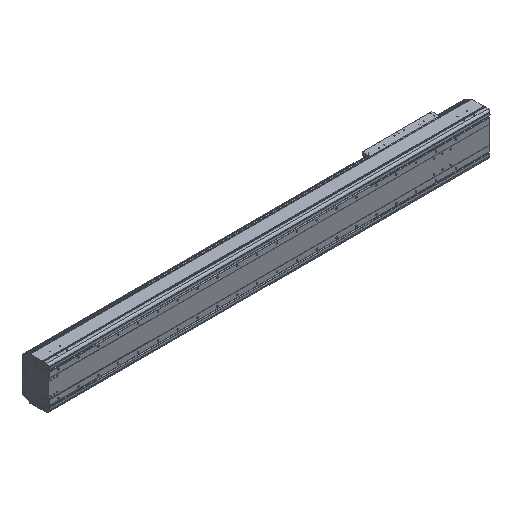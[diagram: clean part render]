
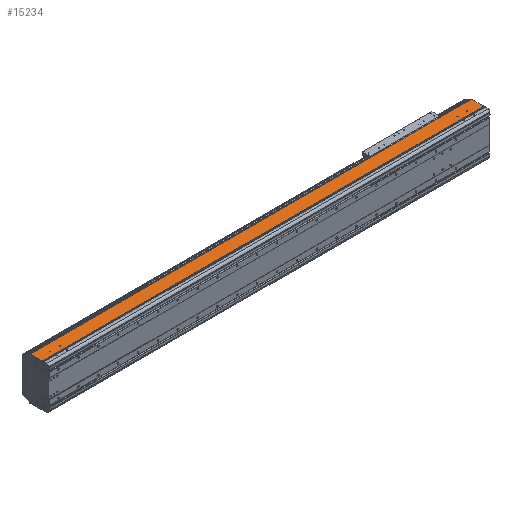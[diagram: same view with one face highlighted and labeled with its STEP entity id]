
A CAD part, isometric view. The second image highlights one B-rep face of the part: STEP entity #15234.
In plain terms, the highlighted planar face has unit normal (0, 0, 1).
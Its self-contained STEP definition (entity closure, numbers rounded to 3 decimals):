
#1832=DIRECTION('',(0.,-1.,0.));
#1833=VECTOR('',#1832,2.55);
#1834=CARTESIAN_POINT('',(0.,34.65,107.));
#1835=LINE('',#1834,#1833);
#2315=DIRECTION('',(1.,0.,0.));
#2316=VECTOR('',#2315,2.);
#2317=CARTESIAN_POINT('',(-2221.,34.65,107.));
#2318=LINE('',#2317,#2316);
#2319=CARTESIAN_POINT('',(-59.5,54.,107.));
#2320=DIRECTION('',(0.,0.,-1.));
#2321=DIRECTION('',(1.,0.,0.));
#2322=AXIS2_PLACEMENT_3D('',#2319,#2320,#2321);
#2324=CARTESIAN_POINT('',(-59.5,54.,107.));
#2325=DIRECTION('',(0.,0.,-1.));
#2326=DIRECTION('',(-1.,0.,0.));
#2327=AXIS2_PLACEMENT_3D('',#2324,#2325,#2326);
#2329=CARTESIAN_POINT('',(-109.5,54.,107.));
#2330=DIRECTION('',(0.,0.,-1.));
#2331=DIRECTION('',(1.,0.,0.));
#2332=AXIS2_PLACEMENT_3D('',#2329,#2330,#2331);
#2334=CARTESIAN_POINT('',(-109.5,54.,107.));
#2335=DIRECTION('',(0.,0.,-1.));
#2336=DIRECTION('',(-1.,0.,0.));
#2337=AXIS2_PLACEMENT_3D('',#2334,#2335,#2336);
#2339=CARTESIAN_POINT('',(-2159.5,54.,107.));
#2340=DIRECTION('',(0.,0.,-1.));
#2341=DIRECTION('',(1.,0.,0.));
#2342=AXIS2_PLACEMENT_3D('',#2339,#2340,#2341);
#2344=CARTESIAN_POINT('',(-2159.5,54.,107.));
#2345=DIRECTION('',(0.,0.,-1.));
#2346=DIRECTION('',(-1.,0.,0.));
#2347=AXIS2_PLACEMENT_3D('',#2344,#2345,#2346);
#2349=CARTESIAN_POINT('',(-2109.5,54.,107.));
#2350=DIRECTION('',(0.,0.,-1.));
#2351=DIRECTION('',(1.,0.,0.));
#2352=AXIS2_PLACEMENT_3D('',#2349,#2350,#2351);
#2354=CARTESIAN_POINT('',(-2109.5,54.,107.));
#2355=DIRECTION('',(0.,0.,-1.));
#2356=DIRECTION('',(-1.,0.,0.));
#2357=AXIS2_PLACEMENT_3D('',#2354,#2355,#2356);
#2359=DIRECTION('',(0.,-1.,0.));
#2360=VECTOR('',#2359,2.55);
#2361=CARTESIAN_POINT('',(-2219.,34.65,107.));
#2362=LINE('',#2361,#2360);
#2363=DIRECTION('',(0.,-1.,0.));
#2364=VECTOR('',#2363,58.85);
#2365=CARTESIAN_POINT('',(-2221.,93.5,107.));
#2366=LINE('',#2365,#2364);
#2367=DIRECTION('',(0.,1.,0.));
#2368=VECTOR('',#2367,58.85);
#2369=CARTESIAN_POINT('',(2.,34.65,107.));
#2370=LINE('',#2369,#2368);
#2371=DIRECTION('',(1.,0.,0.));
#2372=VECTOR('',#2371,2219.);
#2373=CARTESIAN_POINT('',(-2219.,32.1,107.));
#2374=LINE('',#2373,#2372);
#2479=DIRECTION('',(-1.,0.,0.));
#2480=VECTOR('',#2479,2223.);
#2481=CARTESIAN_POINT('',(2.,93.5,107.));
#2482=LINE('',#2481,#2480);
#8389=DIRECTION('',(1.,0.,0.));
#8390=VECTOR('',#8389,2.);
#8391=CARTESIAN_POINT('',(0.,34.65,107.));
#8392=LINE('',#8391,#8390);
#9545=CARTESIAN_POINT('',(-2221.,34.65,107.));
#9546=VERTEX_POINT('',#9545);
#9547=CARTESIAN_POINT('',(-2221.,93.5,107.));
#9548=VERTEX_POINT('',#9547);
#9777=CARTESIAN_POINT('',(-2219.,32.1,107.));
#9778=VERTEX_POINT('',#9777);
#10141=CARTESIAN_POINT('',(0.,32.1,107.));
#10142=VERTEX_POINT('',#10141);
#10143=CARTESIAN_POINT('',(-57.,54.,107.));
#10144=CARTESIAN_POINT('',(-62.,54.,107.));
#10145=VERTEX_POINT('',#10143);
#10146=VERTEX_POINT('',#10144);
#10147=CARTESIAN_POINT('',(-107.,54.,107.));
#10148=CARTESIAN_POINT('',(-112.,54.,107.));
#10149=VERTEX_POINT('',#10147);
#10150=VERTEX_POINT('',#10148);
#10151=CARTESIAN_POINT('',(-2157.,54.,107.));
#10152=CARTESIAN_POINT('',(-2162.,54.,107.));
#10153=VERTEX_POINT('',#10151);
#10154=VERTEX_POINT('',#10152);
#10155=CARTESIAN_POINT('',(-2107.,54.,107.));
#10156=CARTESIAN_POINT('',(-2112.,54.,107.));
#10157=VERTEX_POINT('',#10155);
#10158=VERTEX_POINT('',#10156);
#11058=CARTESIAN_POINT('',(2.,34.65,107.));
#11059=VERTEX_POINT('',#11058);
#11060=CARTESIAN_POINT('',(2.,93.5,107.));
#11061=VERTEX_POINT('',#11060);
#11512=CARTESIAN_POINT('',(0.,34.65,107.));
#11513=VERTEX_POINT('',#11512);
#11592=CARTESIAN_POINT('',(-2219.,34.65,107.));
#11593=VERTEX_POINT('',#11592);
#15192=CARTESIAN_POINT('',(-1109.5,62.8,107.));
#15193=DIRECTION('',(0.,0.,1.));
#15194=DIRECTION('',(0.,-1.,0.));
#15195=AXIS2_PLACEMENT_3D('',#15192,#15193,#15194);
#15196=PLANE('',#15195);
#15197=ORIENTED_EDGE('',*,*,#12678,.F.);
#15198=ORIENTED_EDGE('',*,*,#15187,.F.);
#15199=ORIENTED_EDGE('',*,*,#13307,.F.);
#15201=ORIENTED_EDGE('',*,*,#15200,.F.);
#15202=ORIENTED_EDGE('',*,*,#12415,.F.);
#15204=ORIENTED_EDGE('',*,*,#15203,.F.);
#15205=ORIENTED_EDGE('',*,*,#14795,.T.);
#15207=ORIENTED_EDGE('',*,*,#15206,.F.);
#15208=EDGE_LOOP('',(#15197,#15198,#15199,#15201,#15202,#15204,#15205,#15207));
#15209=FACE_OUTER_BOUND('',#15208,.F.);
#15211=ORIENTED_EDGE('',*,*,#15210,.F.);
#15213=ORIENTED_EDGE('',*,*,#15212,.F.);
#15214=EDGE_LOOP('',(#15211,#15213));
#15215=FACE_BOUND('',#15214,.F.);
#15217=ORIENTED_EDGE('',*,*,#15216,.F.);
#15219=ORIENTED_EDGE('',*,*,#15218,.F.);
#15220=EDGE_LOOP('',(#15217,#15219));
#15221=FACE_BOUND('',#15220,.F.);
#15223=ORIENTED_EDGE('',*,*,#15222,.F.);
#15225=ORIENTED_EDGE('',*,*,#15224,.F.);
#15226=EDGE_LOOP('',(#15223,#15225));
#15227=FACE_BOUND('',#15226,.F.);
#15229=ORIENTED_EDGE('',*,*,#15228,.F.);
#15231=ORIENTED_EDGE('',*,*,#15230,.F.);
#15232=EDGE_LOOP('',(#15229,#15231));
#15233=FACE_BOUND('',#15232,.F.);
#15234=ADVANCED_FACE('',(#15209,#15215,#15221,#15227,#15233),#15196,.T.);
#2323=CIRCLE('',#2322,2.5);
#2328=CIRCLE('',#2327,2.5);
#2333=CIRCLE('',#2332,2.5);
#2338=CIRCLE('',#2337,2.5);
#2343=CIRCLE('',#2342,2.5);
#2348=CIRCLE('',#2347,2.5);
#2353=CIRCLE('',#2352,2.5);
#2358=CIRCLE('',#2357,2.5);
#12415=EDGE_CURVE('',#11059,#11061,#2370,.T.);
#12678=EDGE_CURVE('',#11593,#9778,#2362,.T.);
#13307=EDGE_CURVE('',#9548,#9546,#2366,.T.);
#14795=EDGE_CURVE('',#11513,#10142,#1835,.T.);
#15187=EDGE_CURVE('',#9546,#11593,#2318,.T.);
#15200=EDGE_CURVE('',#11061,#9548,#2482,.T.);
#15203=EDGE_CURVE('',#11513,#11059,#8392,.T.);
#15206=EDGE_CURVE('',#9778,#10142,#2374,.T.);
#15210=EDGE_CURVE('',#10149,#10150,#2333,.T.);
#15212=EDGE_CURVE('',#10150,#10149,#2338,.T.);
#15216=EDGE_CURVE('',#10153,#10154,#2343,.T.);
#15218=EDGE_CURVE('',#10154,#10153,#2348,.T.);
#15222=EDGE_CURVE('',#10157,#10158,#2353,.T.);
#15224=EDGE_CURVE('',#10158,#10157,#2358,.T.);
#15228=EDGE_CURVE('',#10145,#10146,#2323,.T.);
#15230=EDGE_CURVE('',#10146,#10145,#2328,.T.);
